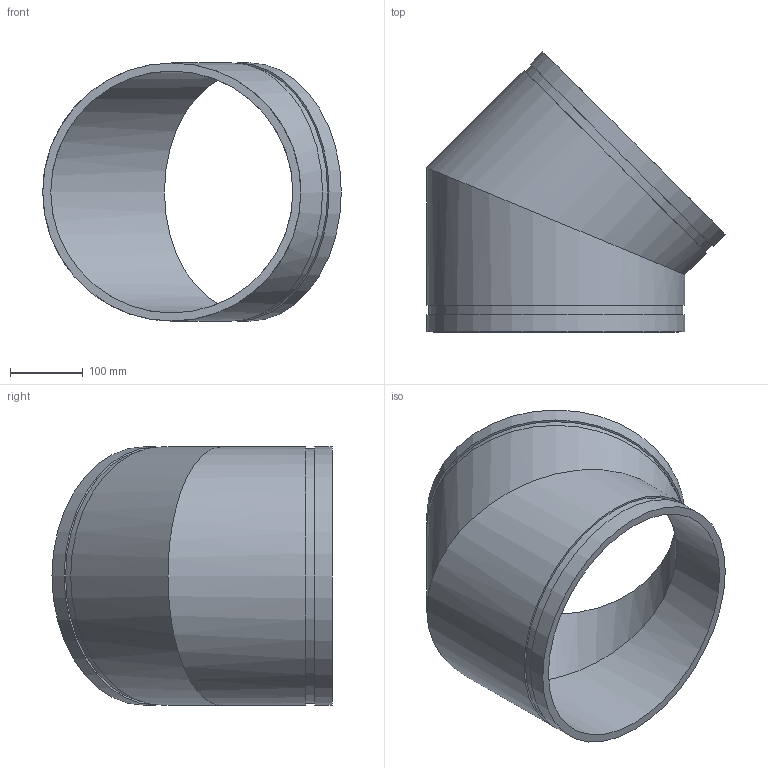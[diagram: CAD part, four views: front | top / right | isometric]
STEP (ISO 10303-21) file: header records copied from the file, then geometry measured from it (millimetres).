
FILE_DESCRIPTION(/* description */ ('VIC 45 DEG FABRICATED ELBOW No 11 SWS (OGS)','CAx-IF Rec.Pracs.---Representation and Presentation of Product Manufacturing Information (PMI)---4.0---2014-10-13'),/* implementation_level */ '2;1');
FILE_NAME(/* name */ 'C:\Users\kkamble\AppData\Roaming\Autodesk\ApplicationPlugins\Back Up\Victaulic_IPS_Elbow 45 Deg_No 11 SWS (OGS)\Victaulic_IPS_Elbow 45 Deg_No 11 SWS (OGS)_14 (350).stp',/* time_stamp */ '2020-09-16T22:15:04+06:00',/* author */ ('cgray'),/* organization */ ('Victaulic'),/* preprocessor_version */ 'ST-DEVELOPER v17.2',/* originating_system */ 'Autodesk Inventor 2019',/* authorisation */ '');
FILE_SCHEMA (('AP242_MANAGED_MODEL_BASED_3D_ENGINEERING_MIM_LF { 1 0 10303 442 1 1 4 }'));
Length unit declared in the file: inch
Products named in the file (1): 11 SWS-14.0
Bounding box: 411.29 x 385.89 x 355.6 mm (x, y, z)
Volume: 3583284.6 mm3; surface area: 695671.1 mm2
Topology: 1 solids, 1 shells, 14 faces, 30 edges, 22 vertices
Faces by surface type: cylinder 8, plane 6
Full cylindrical faces by diameter (mm): 333.4 x2, 350.037 x2, 355.6 x4
Entity records: 554 total; most frequent: DIRECTION 108, CARTESIAN_POINT 84, ORIENTED_EDGE 60, AXIS2_PLACEMENT_3D 50, EDGE_CURVE 30, VERTEX_POINT 22, EDGE_LOOP 20, CIRCLE 16
